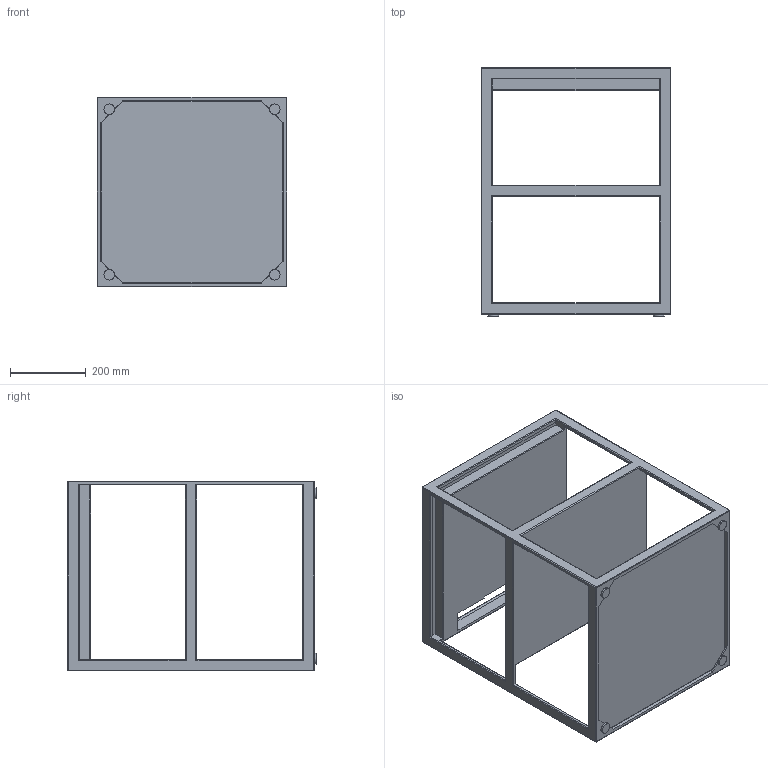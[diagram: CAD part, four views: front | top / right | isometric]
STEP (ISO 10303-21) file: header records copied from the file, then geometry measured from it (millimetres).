
FILE_DESCRIPTION(/* description */ (''),/* implementation_level */ '2;1');
FILE_NAME(/* name */ 'C:\INVENTOR\Workspace\# ARKITEKT FILER\Open Kitchen\OK 50\Open Kitchen 50 No Teak.stp',/* time_stamp */ '2020-05-06T14:54:55+02:00',/* author */ ('Röshults'),/* organization */ (''),/* preprocessor_version */ 'ST-DEVELOPER v17.2',/* originating_system */ 'Autodesk Inventor 2019',/* authorisation */ '');
FILE_SCHEMA (('AUTOMOTIVE_DESIGN { 1 0 10303 214 3 1 1 }'));
Length unit declared in the file: millimetre
Products named in the file (3): Ope  Kitchen 50 No Teak; Open Frame 50; Open Hylla 50
Assembly tree (2 placements, depth 2):
  Ope  Kitchen 50 No Teak
    Open Frame 50
    Open Hylla 50
Bounding box: 500 x 655 x 500 mm (x, y, z)
Volume: 18911994.7 mm3; surface area: 1976431.7 mm2
Topology: 2 solids, 2 shells, 182 faces, 438 edges, 256 vertices
Faces by surface type: cylinder 86, plane 80, sphere 16
Full cylindrical faces by diameter (mm): 28 x4
Entity records: 5303 total; most frequent: DIRECTION 940, CARTESIAN_POINT 881, ORIENTED_EDGE 876, EDGE_CURVE 438, AXIS2_PLACEMENT_3D 315, LINE 310, VECTOR 310, VERTEX_POINT 256
